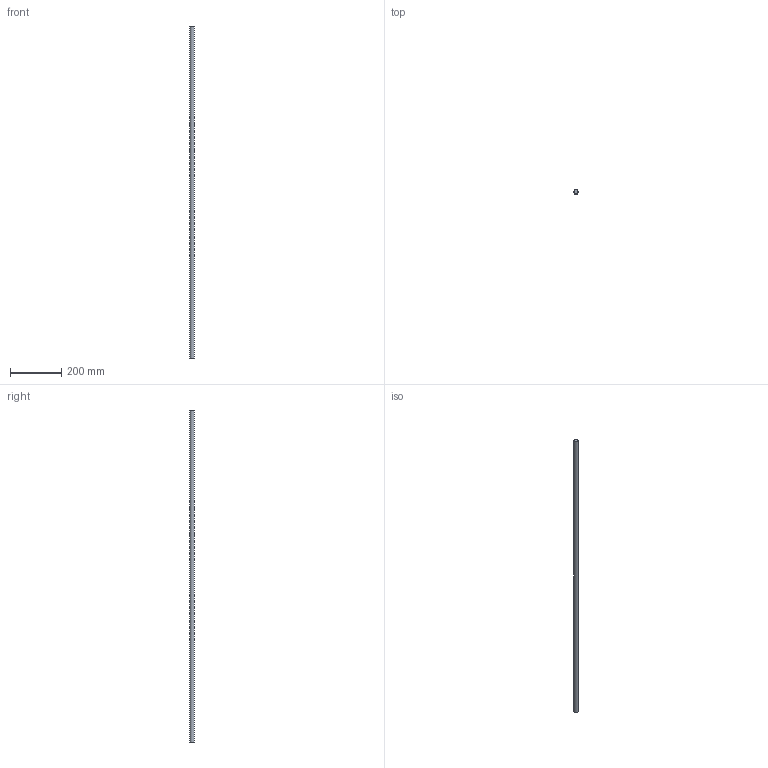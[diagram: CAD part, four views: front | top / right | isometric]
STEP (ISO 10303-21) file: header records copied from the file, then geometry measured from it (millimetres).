
FILE_DESCRIPTION(/* description */ (''),/* implementation_level */ '2;1');
FILE_NAME(/* name */ 'C:\Users\David\Desktop\stepFiles\Profilfuehrung\WF16x1300.stp',/* time_stamp */ '2018-06-24T15:46:56+02:00',/* author */ ('David'),/* organization */ (''),/* preprocessor_version */ 'ST-DEVELOPER v17',/* originating_system */ 'Autodesk Inventor 2019',/* authorisation */ '');
FILE_SCHEMA (('AUTOMOTIVE_DESIGN { 1 0 10303 214 3 1 1 }'));
Length unit declared in the file: millimetre
Products named in the file (1): Wellenfuehrung
Bounding box: 16 x 16 x 1300 mm (x, y, z)
Volume: 261380.5 mm3; surface area: 65747.3 mm2
Topology: 1 solids, 1 shells, 3 faces, 3 edges, 2 vertices
Faces by surface type: plane 2, cylinder 1
Full cylindrical faces by diameter (mm): 16 x1
Entity records: 98 total; most frequent: DIRECTION 13, CARTESIAN_POINT 9, ORIENTED_EDGE 6, AXIS2_PLACEMENT_3D 6, FACE_OUTER_BOUND 3, EDGE_LOOP 3, EDGE_CURVE 3, ADVANCED_FACE 3
